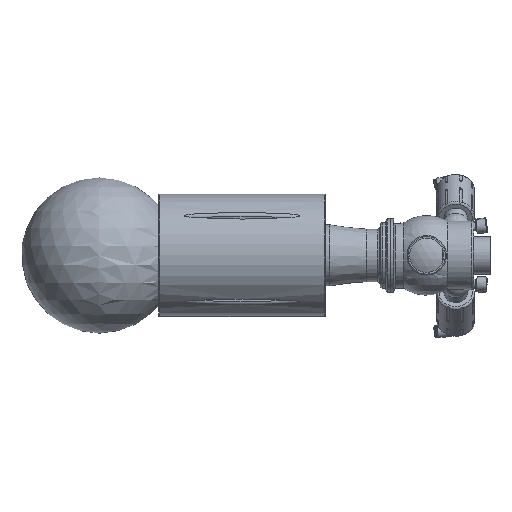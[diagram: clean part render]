
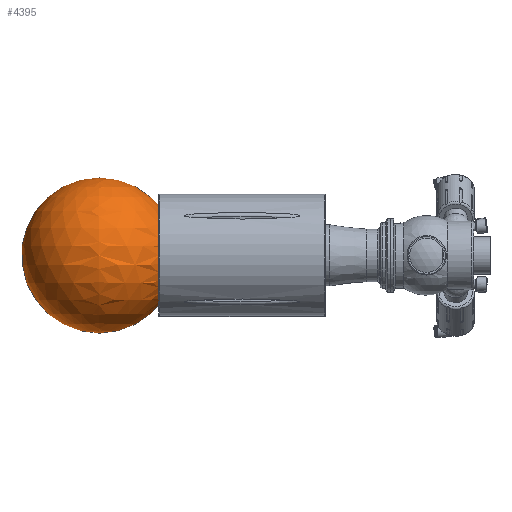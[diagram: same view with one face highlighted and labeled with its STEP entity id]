
A CAD part, left-side view. The second image highlights one B-rep face of the part: STEP entity #4395.
In plain terms, the highlighted spherical face has radius 72.5 mm.
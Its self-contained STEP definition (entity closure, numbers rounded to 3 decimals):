
#171=FACE_BOUND('',#1308,.T.);
#937=SPHERICAL_SURFACE('',#4967,72.5);
#1047=FACE_OUTER_BOUND('',#1307,.T.);
#1307=EDGE_LOOP('',(#3470,#3471));
#1308=EDGE_LOOP('',(#3472));
#1617=CIRCLE('',#4968,72.5);
#1618=CIRCLE('',#4969,46.648);
#1974=VERTEX_POINT('',#7800);
#1975=VERTEX_POINT('',#7801);
#1976=VERTEX_POINT('',#7803);
#2524=EDGE_CURVE('',#1974,#1975,#1617,.T.);
#2525=EDGE_CURVE('',#1976,#1976,#1618,.T.);
#3470=ORIENTED_EDGE('',*,*,#2524,.T.);
#3471=ORIENTED_EDGE('',*,*,#2524,.F.);
#3472=ORIENTED_EDGE('',*,*,#2525,.F.);
#4395=ADVANCED_FACE('',(#1047,#171),#937,.T.);
#4967=AXIS2_PLACEMENT_3D('',#7799,#5859,#5860);
#4968=AXIS2_PLACEMENT_3D('',#7802,#5861,#5862);
#4969=AXIS2_PLACEMENT_3D('',#7804,#5863,#5864);
#5859=DIRECTION('center_axis',(0.,0.,1.));
#5860=DIRECTION('ref_axis',(1.,0.,0.));
#5861=DIRECTION('center_axis',(0.,-1.,0.));
#5862=DIRECTION('ref_axis',(-1.,0.,0.));
#5863=DIRECTION('center_axis',(0.,-1.,0.));
#5864=DIRECTION('ref_axis',(1.,0.,0.));
#7799=CARTESIAN_POINT('Origin',(150.,266.5,0.));
#7800=CARTESIAN_POINT('',(150.,266.5,72.5));
#7801=CARTESIAN_POINT('',(150.,266.5,-72.5));
#7802=CARTESIAN_POINT('Origin',(150.,266.5,0.));
#7803=CARTESIAN_POINT('',(196.648,211.,0.));
#7804=CARTESIAN_POINT('Origin',(150.,211.,0.));
